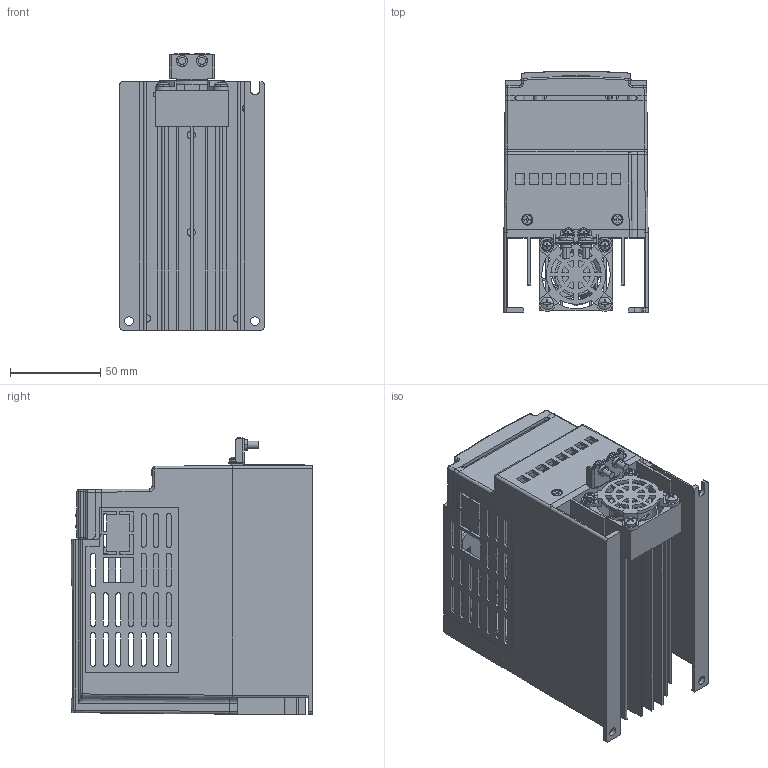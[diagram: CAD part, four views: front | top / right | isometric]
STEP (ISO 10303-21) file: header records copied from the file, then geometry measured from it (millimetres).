
FILE_DESCRIPTION((''),'2;1');
FILE_NAME('E1-ZHUANGPEITI_ASM_ASM','2015-09-07T',('Administrator'),(''),'PRO/ENGINEER BY PARAMETRIC TECHNOLOGY CORPORATION, 2013150','PRO/ENGINEER BY PARAMETRIC TECHNOLOGY CORPORATION, 2013150','');
FILE_SCHEMA(('CONFIG_CONTROL_DESIGN'));
Products named in the file (25): FAN_4020_25_1_1_1_1; MANIFOLD_SOLID_BREP_119572_1_1_; MANIFOLD_SOLID_BREP_119971_1_1_; MANIFOLD_SOLID_BREP_120418_1_1_; MANIFOLD_SOLID_BREP_120535_1_1_; MANIFOLD_SOLID_BREP_120949_1_1_; MANIFOLD_SOLID_BREP_121066_1_1_; MANIFOLD_SOLID_BREP_121216_1_1_; MIANMO_19_ASM_1_ASM_1_ASM_1_ASM_ASM; M3X6_14_1_1_1_1; FENGJIZHAO_8_1_1_1_1; M3X30_7_1_1_1_1; M3X6-ZUHE_7_1_1_1_1; M4X10-1_8_1_1_1_1; ST3_5X9_5__7_1_1_1_1; SHANGGAIGAIMO1225_1_1_1_1_1; E1-ZHUANGPEITI_ASM_36_ASM_1_ASM_ASM; PRT0001_1_1_1_1; E1-ZHUANGPEITI_ASM_ASM_1_-62672_ASM; E1-ZHUANGPEITI_ASM_ASM_1_-67313_ASM; E-PLATE_1_1; XIAOGAI5_1_1; E1-ZHUANGPEITI_ASM_ASM_1_ASM_1_ASM; E1-ZHUANGPEITI_ASM_ASM_1_ASM; E1-ZHUANGPEITI_ASM_ASM
Assembly tree (30 placements, depth 8):
  E1-ZHUANGPEITI_ASM_ASM
    E1-ZHUANGPEITI_ASM_ASM_1_ASM
      E1-ZHUANGPEITI_ASM_ASM_1_ASM_1_ASM
        E1-ZHUANGPEITI_ASM_ASM_1_-67313_ASM
          E1-ZHUANGPEITI_ASM_ASM_1_-62672_ASM
            E1-ZHUANGPEITI_ASM_36_ASM_1_ASM_ASM
              FAN_4020_25_1_1_1_1
              MIANMO_19_ASM_1_ASM_1_ASM_1_ASM_ASM
                MANIFOLD_SOLID_BREP_119572_1_1_
                MANIFOLD_SOLID_BREP_119971_1_1_
                MANIFOLD_SOLID_BREP_120418_1_1_
                MANIFOLD_SOLID_BREP_120535_1_1_
                MANIFOLD_SOLID_BREP_120949_1_1_
                MANIFOLD_SOLID_BREP_121066_1_1_
                MANIFOLD_SOLID_BREP_121216_1_1_
              M3X6_14_1_1_1_1  x3
              FENGJIZHAO_8_1_1_1_1
              M3X30_7_1_1_1_1  x2
              M3X6-ZUHE_7_1_1_1_1  x2
              M4X10-1_8_1_1_1_1  x2
              ST3_5X9_5__7_1_1_1_1  x2
              SHANGGAIGAIMO1225_1_1_1_1_1
            PRT0001_1_1_1_1
        E-PLATE_1_1
        XIAOGAI5_1_1
Bounding box: 80 x 134 x 153.6 mm (x, y, z)
Volume: 146286.8 mm3; surface area: 223100.9 mm2
Topology: 22 solids, 39 shells, 2151 faces, 6060 edges, 4028 vertices
Faces by surface type: plane 1295, cylinder 489, extrusion 174, bspline 102, torus 32, cone 30, sphere 29
Entity records: 72846 total; most frequent: CARTESIAN_POINT 23086, ORIENTED_EDGE 10849, DIRECTION 8869, EDGE_CURVE 5499, VECTOR 3809, VERTEX_POINT 3684, LINE 3635, AXIS2_PLACEMENT_3D 2530
